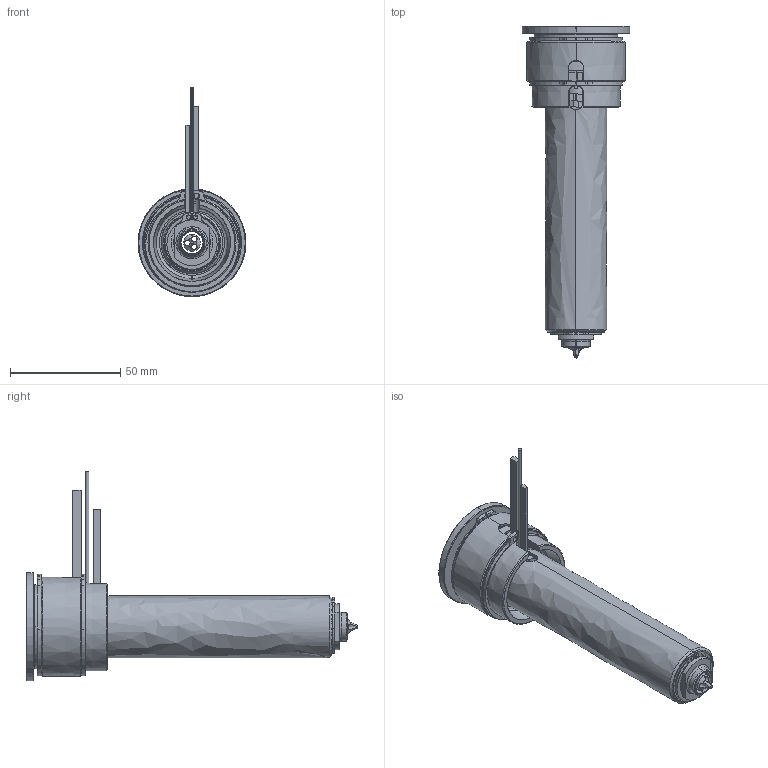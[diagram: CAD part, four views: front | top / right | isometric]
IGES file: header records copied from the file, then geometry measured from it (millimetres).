
Start section: SolidWorks IGES file using analytic representation for surfaces
Global section: file name: C:\Documents and Settings\ws-20\Desktop\TEM\UGEP4503-S-A-1 [Øf-1.17 ØC-10].IGS; native system: SolidWorks 2012; preprocessor: SolidWorks 2012; author: ws-20; date: 120424.090824; units: millimetre
Bounding box: 49 x 150.8 x 95.15 mm (x, y, z)
Surface area: 56860.2 mm2 (no closed solid volume)
Topology: 0 solids, 0 shells, 185 faces, 3511 edges, 3511 vertices
Faces by surface type: revolution 121, bspline 64
